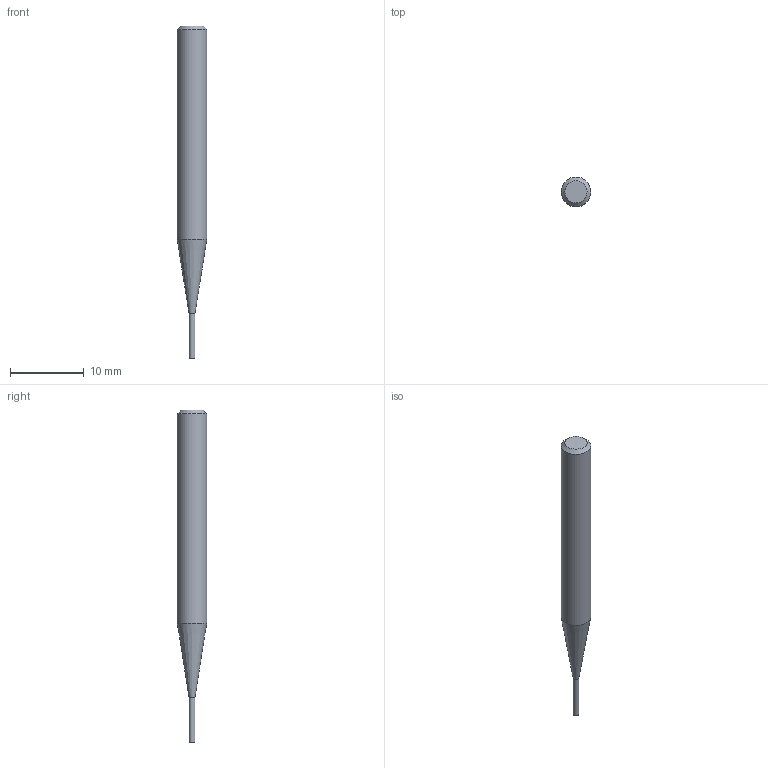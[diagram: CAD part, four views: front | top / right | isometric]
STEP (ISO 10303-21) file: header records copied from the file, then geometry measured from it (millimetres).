
FILE_DESCRIPTION((''),'2;1');
FILE_NAME('C:\Users\nsx150\Desktop\RSE230_20210427\01-00644-00802 RSE230 D0_8X6.step','2021-05-07T14:53:03',(''),(''),'STEP Write','Mastercam 2021 ... CNC Software, Inc.','');
FILE_SCHEMA(('AUTOMOTIVE_DESIGN'));
Length unit declared in the file: millimetre
Products named in the file (1): None
Bounding box: 4 x 4 x 45 mm (x, y, z)
Volume: 417.2 mm3; surface area: 465.4 mm2
Topology: 2 solids, 2 shells, 8 faces, 10 edges, 6 vertices
Faces by surface type: plane 4, cylinder 2, cone 2
Full cylindrical faces by diameter (mm): 0.8 x1, 4 x1
Entity records: 190 total; most frequent: DIRECTION 32, CARTESIAN_POINT 22, AXIS2_PLACEMENT_3D 16, ORIENTED_EDGE 12, EDGE_LOOP 12, STYLED_ITEM 11, ADVANCED_FACE 8, VERTEX_POINT 6
